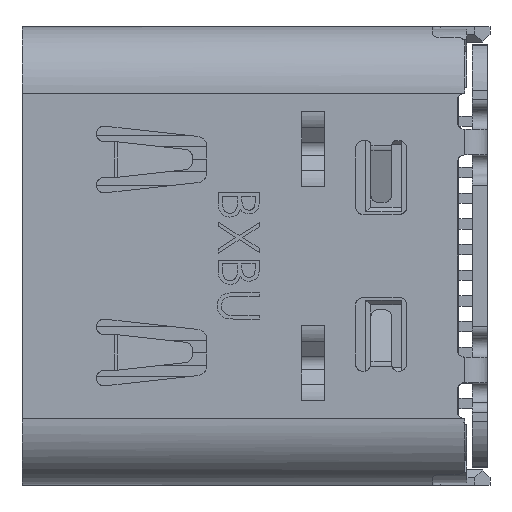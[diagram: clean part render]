
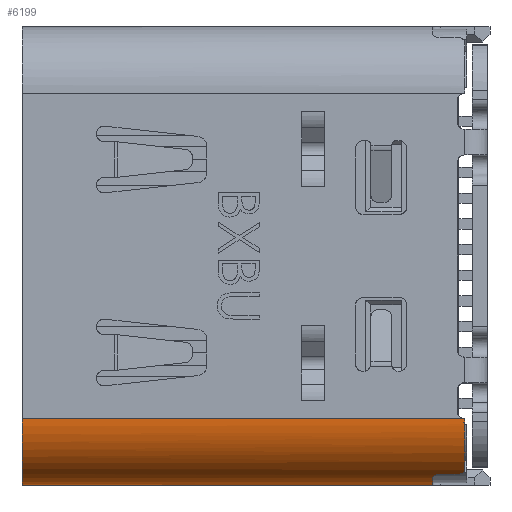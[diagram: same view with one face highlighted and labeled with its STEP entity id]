
A CAD part, left-side view. The second image highlights one B-rep face of the part: STEP entity #6199.
In plain terms, the highlighted cylindrical face has radius 1.3 mm (diameter 2.6 mm), a partial arc.
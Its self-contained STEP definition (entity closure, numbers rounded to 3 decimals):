
#1579=CARTESIAN_POINT('',(-0.59,6.682,-9.17));
#1580=VERTEX_POINT('',#1579);
#1590=CARTESIAN_POINT('',(-0.585,6.687,-9.282));
#1591=VERTEX_POINT('',#1590);
#1592=CARTESIAN_POINT('',(-0.59,6.682,-9.17));
#1593=CARTESIAN_POINT('',(-0.59,6.682,-9.207));
#1594=CARTESIAN_POINT('',(-0.588,6.684,-9.245));
#1595=CARTESIAN_POINT('',(-0.585,6.687,-9.282));
#1596=B_SPLINE_CURVE_WITH_KNOTS('',3,(#1592,#1593,#1594,#1595),.UNSPECIFIED.,.F.,.U.,
 (4,4),(0.0,1.0),.UNSPECIFIED.);
#1597=EDGE_CURVE('no 10106',#1580,#1591,#1596,.T.);
#6011=CARTESIAN_POINT('',(-0.59,15.312,-9.17));
#6012=VERTEX_POINT('',#6011);
#6019=CARTESIAN_POINT('',(-0.59,15.312,-9.17));
#6020=DIRECTION('',(0.,-1.0,0.));
#6021=VECTOR('',#6020,1.0);
#6022=LINE('',#6019,#6021);
#6023=EDGE_CURVE('no 33790',#6012,#1580,#6022,.T.);
#6110=CARTESIAN_POINT('',(0.71,15.312,-10.47));
#6111=VERTEX_POINT('',#6110);
#6112=CARTESIAN_POINT('',(0.71,15.312,-10.47));
#6113=CARTESIAN_POINT('',(0.538,15.312,-10.47));
#6114=CARTESIAN_POINT('',(0.371,15.312,-10.437));
#6115=CARTESIAN_POINT('',(0.054,15.312,-10.305));
#6116=CARTESIAN_POINT('',(-0.088,15.312,-10.211));
#6117=CARTESIAN_POINT('',(-0.331,15.312,-9.968));
#6118=CARTESIAN_POINT('',(-0.425,15.312,-9.827));
#6119=CARTESIAN_POINT('',(-0.557,15.312,-9.508));
#6120=CARTESIAN_POINT('',(-0.59,15.312,-9.343));
#6121=CARTESIAN_POINT('',(-0.59,15.312,-9.17));
#6122=B_SPLINE_CURVE_WITH_KNOTS('',3,(#6112,#6113,#6114,#6115,#6116,#6117,#6118,#6119,#6120,#6121),.UNSPECIFIED.,.F.,.U.,
 (4,2,2,2,4),(0.0,0.514,1.028,1.542,2.055),.UNSPECIFIED.);
#6123=EDGE_CURVE('no 45299',#6111,#6012,#6122,.T.);
#6124=ORIENTED_EDGE('no 16638',*,*,#6123,.F.);
#6125=CARTESIAN_POINT('',(0.71,7.312,-10.47));
#6126=VERTEX_POINT('',#6125);
#6127=CARTESIAN_POINT('',(0.71,15.312,-10.47));
#6128=DIRECTION('',(-0.0,-1.0,0.0));
#6129=VECTOR('',#6128,1.0);
#6130=LINE('',#6127,#6129);
#6131=EDGE_CURVE('no 31777',#6111,#6126,#6130,.T.);
#6132=ORIENTED_EDGE('no 22651',*,*,#6131,.T.);
#6133=CARTESIAN_POINT('',(0.125,7.312,-10.331));
#6134=VERTEX_POINT('',#6133);
#6135=CARTESIAN_POINT('',(0.71,7.312,-10.47));
#6136=CARTESIAN_POINT('',(0.508,7.312,-10.47));
#6137=CARTESIAN_POINT('',(0.306,7.312,-10.422));
#6138=CARTESIAN_POINT('',(0.125,7.312,-10.331));
#6139=B_SPLINE_CURVE_WITH_KNOTS('',3,(#6135,#6136,#6137,#6138),.UNSPECIFIED.,.F.,.U.,
 (4,4),(0.0,1.0),.UNSPECIFIED.);
#6140=EDGE_CURVE('no 28256',#6126,#6134,#6139,.T.);
#6141=ORIENTED_EDGE('no 17298',*,*,#6140,.T.);
#6142=CARTESIAN_POINT('',(-0.005,7.162,-10.256));
#6143=VERTEX_POINT('',#6142);
#6144=CARTESIAN_POINT('',(0.125,7.312,-10.331));
#6145=CARTESIAN_POINT('',(0.088,7.312,-10.312));
#6146=CARTESIAN_POINT('',(0.057,7.298,-10.295));
#6147=CARTESIAN_POINT('',(0.007,7.239,-10.264));
#6148=CARTESIAN_POINT('',(-0.005,7.204,-10.256));
#6149=CARTESIAN_POINT('',(-0.005,7.162,-10.256));
#6150=B_SPLINE_CURVE_WITH_KNOTS('',3,(#6144,#6145,#6146,#6147,#6148,#6149),.UNSPECIFIED.,.F.,.U.,
 (4,2,4),(0.0,0.5,1.0),.UNSPECIFIED.);
#6151=EDGE_CURVE('no 19238',#6134,#6143,#6150,.T.);
#6152=ORIENTED_EDGE('no 25818',*,*,#6151,.T.);
#6153=CARTESIAN_POINT('',(-0.005,6.832,-10.256));
#6154=VERTEX_POINT('',#6153);
#6155=CARTESIAN_POINT('',(-0.005,7.162,-10.256));
#6156=DIRECTION('',(0.0,-1.0,-0.0));
#6157=VECTOR('',#6156,1.0);
#6158=LINE('',#6155,#6157);
#6159=EDGE_CURVE('no 17935',#6143,#6154,#6158,.T.);
#6160=ORIENTED_EDGE('no 13081',*,*,#6159,.T.);
#6161=CARTESIAN_POINT('',(-0.125,6.682,-10.166));
#6162=VERTEX_POINT('',#6161);
#6163=CARTESIAN_POINT('',(-0.005,6.832,-10.256));
#6164=CARTESIAN_POINT('',(-0.005,6.791,-10.256));
#6165=CARTESIAN_POINT('',(-0.017,6.756,-10.248));
#6166=CARTESIAN_POINT('',(-0.065,6.697,-10.214));
#6167=CARTESIAN_POINT('',(-0.094,6.682,-10.193));
#6168=CARTESIAN_POINT('',(-0.125,6.682,-10.166));
#6169=B_SPLINE_CURVE_WITH_KNOTS('',3,(#6163,#6164,#6165,#6166,#6167,#6168),.UNSPECIFIED.,.F.,.U.,
 (4,2,4),(0.0,0.5,1.0),.UNSPECIFIED.);
#6170=EDGE_CURVE('no 36436',#6154,#6162,#6169,.T.);
#6171=ORIENTED_EDGE('no 33616',*,*,#6170,.T.);
#6172=CARTESIAN_POINT('',(-0.581,6.682,-9.32));
#6173=VERTEX_POINT('',#6172);
#6174=CARTESIAN_POINT('',(-0.125,6.682,-10.166));
#6175=CARTESIAN_POINT('',(-0.251,6.682,-10.061));
#6176=CARTESIAN_POINT('',(-0.357,6.682,-9.931));
#6177=CARTESIAN_POINT('',(-0.512,6.682,-9.642));
#6178=CARTESIAN_POINT('',(-0.562,6.682,-9.483));
#6179=CARTESIAN_POINT('',(-0.581,6.682,-9.32));
#6180=B_SPLINE_CURVE_WITH_KNOTS('',3,(#6174,#6175,#6176,#6177,#6178,#6179),.UNSPECIFIED.,.F.,.U.,
 (4,2,4),(0.0,0.5,1.0),.UNSPECIFIED.);
#6181=EDGE_CURVE('no 23012',#6162,#6173,#6180,.T.);
#6182=ORIENTED_EDGE('no 16479',*,*,#6181,.T.);
#6183=CARTESIAN_POINT('',(-0.585,6.687,-9.282));
#6184=CARTESIAN_POINT('',(-0.584,6.684,-9.295));
#6185=CARTESIAN_POINT('',(-0.583,6.682,-9.307));
#6186=CARTESIAN_POINT('',(-0.581,6.682,-9.32));
#6187=B_SPLINE_CURVE_WITH_KNOTS('',3,(#6183,#6184,#6185,#6186),.UNSPECIFIED.,.F.,.U.,
 (4,4),(0.0,1.0),.UNSPECIFIED.);
#6188=EDGE_CURVE('no 15867',#1591,#6173,#6187,.T.);
#6189=ORIENTED_EDGE('no 24879',*,*,#6188,.F.);
#6190=ORIENTED_EDGE('no 6552',*,*,#1597,.F.);
#6191=ORIENTED_EDGE('no 46315',*,*,#6023,.F.);
#6192=EDGE_LOOP('',(#6124,#6132,#6141,#6152,#6160,#6171,#6182,#6189,#6190,#6191));
#6193=FACE_OUTER_BOUND('',#6192,.T.);
#6194=CARTESIAN_POINT('',(0.71,6.192,-9.17));
#6195=DIRECTION('',(0.0,1.0,0.0));
#6196=DIRECTION('',(0.707,-0.0,0.707));
#6197=AXIS2_PLACEMENT_3D('',#6194,#6195,#6196);
#6198=CYLINDRICAL_SURFACE('',#6197,1.3);
#6199=ADVANCED_FACE('no 20843',(#6193),#6198,.T.);
